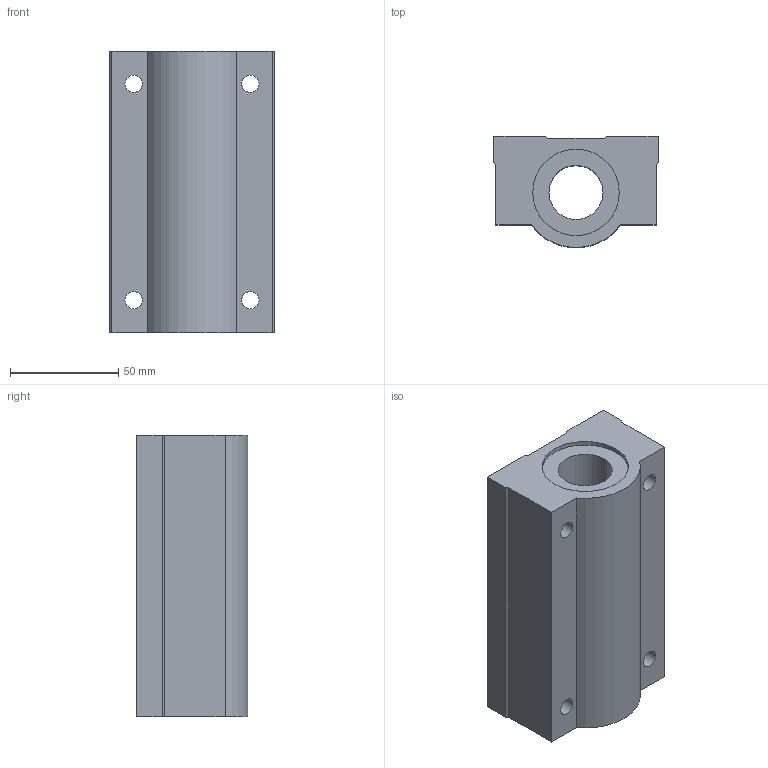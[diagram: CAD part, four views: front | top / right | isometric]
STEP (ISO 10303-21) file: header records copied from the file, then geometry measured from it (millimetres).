
FILE_DESCRIPTION((''),'2;1');
FILE_NAME('C:\Documents and Settings\ｿﾀﾀ蠑ｷ1\ｹﾙﾅﾁ ﾈｭｸ饅\ｺﾎﾇｰﾆﾄﾀﾏ\ﾁｦﾇｰ\SC__WUUN\SC25WUUN.stp','2005-06-22T11:02:14',('ｿﾀﾀ蠑ｷ1'),(''),'Autodesk Inventor 9','Autodesk Inventor 9','');
FILE_SCHEMA(('AUTOMOTIVE_DESIGN { 1 0 10303 214 1 1 1 1 }'));
Length unit declared in the file: millimetre
Products named in the file (1): SC__UUN
Bounding box: 76 x 51.41 x 130 mm (x, y, z)
Volume: 358451.5 mm3; surface area: 51065 mm2
Topology: 1 solids, 1 shells, 32 faces, 84 edges, 56 vertices
Faces by surface type: plane 17, bspline 8, cylinder 7
Entity records: 1145 total; most frequent: CARTESIAN_POINT 309, ORIENTED_EDGE 168, DIRECTION 164, EDGE_CURVE 84, VERTEX_POINT 56, AXIS2_PLACEMENT_3D 55, VECTOR 54, LINE 54
